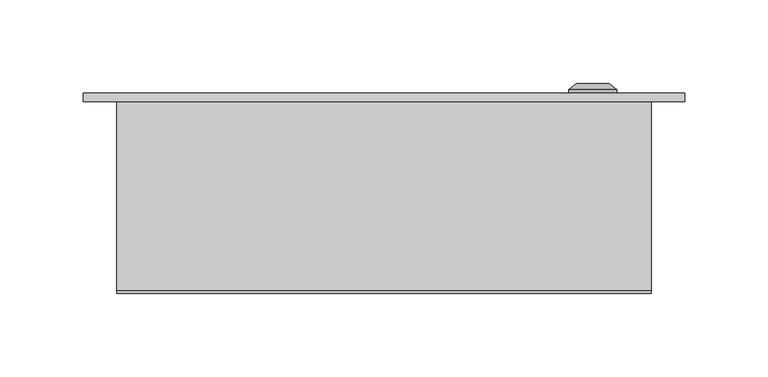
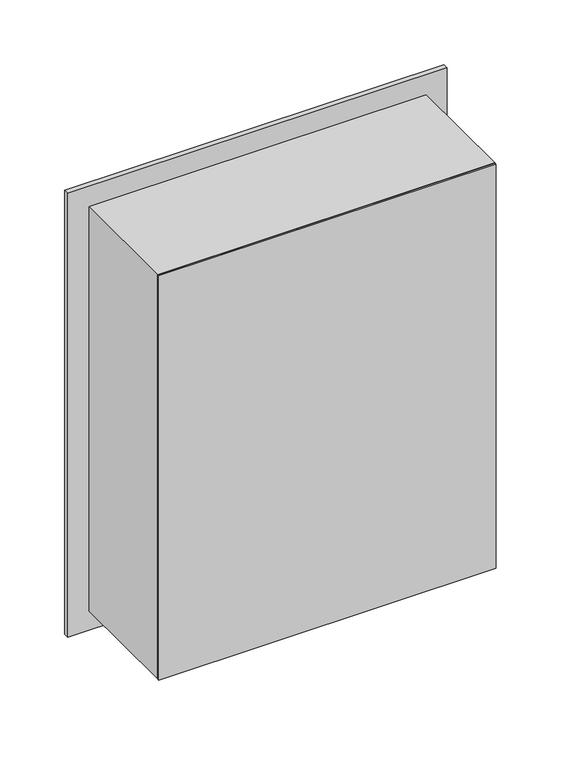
"""IFC4 building model written with IfcOpenShell, lengths in millimetres: proxy geometry, ЩРВ_18-24 : ЩРВ-18."""

from ifc_helpers import new_model, si_unit, frame, origin, origin_with_axes, place, context, project, spatial, polyline, circle_curve, outline, extrude, source, transform, mapped, element, save
from ifc_brep_helpers import plane_surface, cylinder_surface, revolved_surface, advanced_brep


def electrical_equipment_a2a301cd(model_context):
    return source(origin(), model_context, "Body", "SolidModel", [
        extrude(outline(polyline([(425.0, -180.0033905), (-20.0, -180.0033905), (-20.0, 179.9966095), (425.0, 179.9966095), (425.0, -180.0033905)]), holes=[polyline([(400.0, -155.0), (400.0, 155.0), (5.0, 155.0), (5.0, -155.0), (400.0, -155.0)])]), frame((0.0, 115.0, 0.0), z_axis=(0.0, 1.0, 0.0), x_axis=(0.0, 0.0, 1.0)), (0.0, 0.0, 1.0), 5.0),
        advanced_brep(
        [(110.669873, 120.0, 202.5), (139.330127, 120.0, 202.5), (125.0, 120.0, 202.5), (110.669873, 122.366592, 202.5), (139.330127, 122.366592, 202.5), (115.0, 126.0, 202.5), (135.0, 126.0, 202.5), (123.1080471, 126.0, 202.5), (126.8919529, 126.0, 202.5), (123.1080471, 124.9822294, 202.5), (126.8919529, 124.9822294, 202.5), (125.0, 124.9822294, 202.5)],
        [
            (0, 1, circle_curve(frame((125.0, 120.0, 202.5), z_axis=(0.0, -1.0, 0.0), x_axis=(1.0, 0.0, 0.0)), 14.330127)),
            (1, 2),
            (2, 0),
            (1, 0, circle_curve(frame((125.0, 120.0, 202.5), z_axis=(0.0, -1.0, 0.0), x_axis=(1.0, 0.0, 0.0)), 14.330127)),
            (3, 4, circle_curve(frame((125.0, 122.366592, 202.5), z_axis=(0.0, -1.0, 0.0), x_axis=(1.0, 0.0, 0.0)), 14.330127)),
            (4, 1),
            (0, 3),
            (4, 3, circle_curve(frame((125.0, 122.366592, 202.5), z_axis=(0.0, -1.0, 0.0), x_axis=(1.0, 0.0, 0.0)), 14.330127)),
            (5, 6, circle_curve(frame((125.0, 126.0, 202.5), z_axis=(0.0, -1.0, 0.0), x_axis=(1.0, 0.0, 0.0)), 10.0)),
            (6, 4),
            (3, 5),
            (6, 5, circle_curve(frame((125.0, 126.0, 202.5), z_axis=(0.0, -1.0, 0.0), x_axis=(1.0, 0.0, 0.0)), 10.0)),
            (7, 8, circle_curve(frame((125.0, 126.0, 202.5), z_axis=(0.0, -1.0, 0.0), x_axis=(1.0, 0.0, 0.0)), 1.8919529)),
            (8, 6),
            (5, 7),
            (8, 7, circle_curve(frame((125.0, 126.0, 202.5), z_axis=(0.0, -1.0, 0.0), x_axis=(1.0, 0.0, 0.0)), 1.8919529)),
            (9, 10, circle_curve(frame((125.0, 124.9822294, 202.5), z_axis=(0.0, -1.0, 0.0), x_axis=(1.0, 0.0, 0.0)), 1.8919529)),
            (10, 8),
            (7, 9),
            (10, 9, circle_curve(frame((125.0, 124.9822294, 202.5), z_axis=(0.0, -1.0, 0.0), x_axis=(1.0, 0.0, 0.0)), 1.8919529)),
            (11, 10),
            (9, 11),
        ],
        [
            plane_surface(frame((125.0, 120.0, 202.5), z_axis=(0.0, -1.0, 0.0), x_axis=(1.0, 0.0, 0.0))),
            cylinder_surface(frame((125.0, 133.1348851, 202.5), z_axis=(0.0, 1.0, 0.0), x_axis=(1.0, 0.0, 0.0)), 14.330127),
            revolved_surface(polyline([(139.330127, 122.366592, 202.5), (135.0, 126.0, 202.5)]), (125.0, 133.1348851, 202.5), (0.0, 1.0, 0.0)),
            plane_surface(frame((125.0, 126.0, 202.5), z_axis=(0.0, 1.0, 0.0), x_axis=(1.0, 0.0, 0.0))),
            revolved_surface(polyline([(126.8919529, 126.0, 202.5), (126.8919529, 124.9822294, 202.5)]), (125.0, 133.1348851, 202.5), (0.0, 1.0, 0.0)),
            plane_surface(frame((125.0, 124.9822294, 202.5), z_axis=(0.0, 1.0, 0.0), x_axis=(1.0, 0.0, 0.0))),
        ],
        [
            (0, [[1, 2, 3]]),
            (0, [[4, -3, -2]]),
            (1, [[5, 6, -1, 7]]),
            (1, [[8, -7, -4, -6]]),
            (2, [[9, 10, -5, 11]]),
            (2, [[12, -11, -8, -10]]),
            (3, [[13, 14, -9, 15]]),
            (3, [[16, -15, -12, -14]]),
            (4, [[17, 18, -13, 19]]),
            (4, [[20, -19, -16, -18]]),
            (5, [[21, -17, 22]]),
            (5, [[-22, -20, -21]]),
        ],
    ),
        extrude(outline(polyline([(154.0, 115.0), (-154.0, 115.0), (-154.0, 120.0), (154.0, 120.0), (154.0, 115.0)])), frame((0.0, 0.0, 6.0), z_axis=(0.0, 0.0, 1.0), x_axis=(1.0, 0.0, 0.0)), (0.0, 0.0, 1.0), 393.0),
        extrude(outline(polyline([(405.0, -160.0033905), (0.0, -160.0033905), (0.0, 159.9966095), (405.0, 159.9966095), (405.0, -160.0033905)]), holes=[polyline([(400.0, -155.0), (400.0, 155.0), (5.0, 155.0), (5.0, -155.0), (400.0, -155.0)])]), frame((0.0, 2.0, 0.0), z_axis=(0.0, 1.0, 0.0), x_axis=(0.0, 0.0, 1.0)), (0.0, 0.0, 1.0), 113.0),
        extrude(outline(polyline([(160.0, 0.0), (-160.0, 0.0), (-160.0, 2.0), (160.0, 2.0), (160.0, 0.0)])), origin_with_axes(), (0.0, 0.0, 1.0), 405.0),
    ])


if __name__ == "__main__":
    model = new_model("IFC4")
    model_context = context("Model", 3, world=origin())
    ifc_project = project(units=[si_unit("LENGTHUNIT", "METRE", prefix="MILLI")], contexts=[model_context])
    site = spatial("IfcSite", under=ifc_project)
    building = spatial("IfcBuilding", under=site)
    placement = place(None, origin())
    electrical_equipment_shape = electrical_equipment_a2a301cd(model_context)
    element("IfcBuildingElementProxy", 1, Name="ЩРВ_18-24 : ЩРВ-18", ObjectType="ЩРВ_18-24 : ЩРВ-18", at=placement, inside=building, context=model_context, shape_type="MappedRepresentation", body=[
        mapped(electrical_equipment_shape, transform((0.0, 0.0, 0.0), x_axis=(1.0, 0.0, 0.0), y_axis=(0.0, 1.0, 0.0), z_axis=(0.0, 0.0, 1.0))),
    ])
    save(model, "model.ifc")
